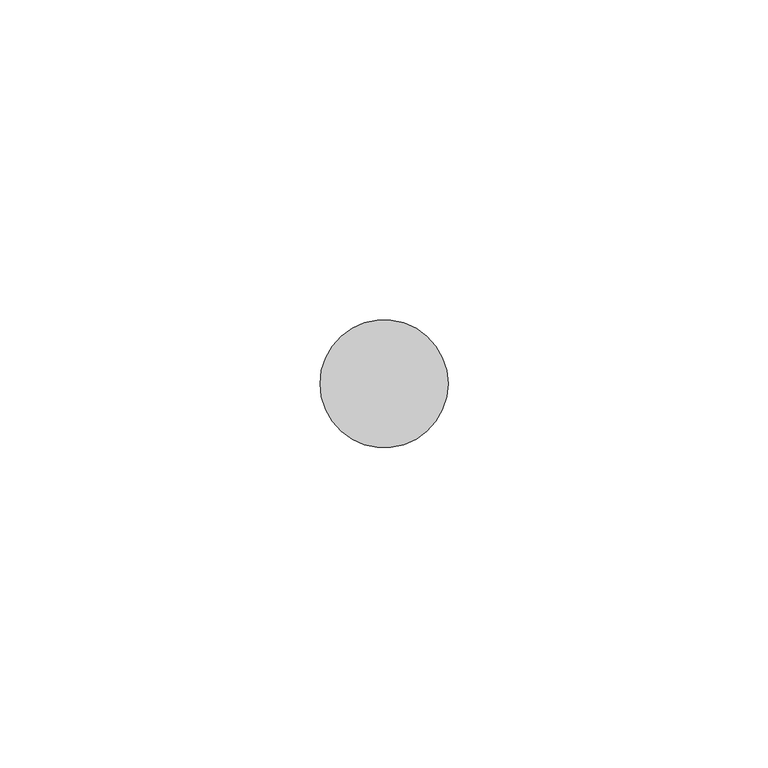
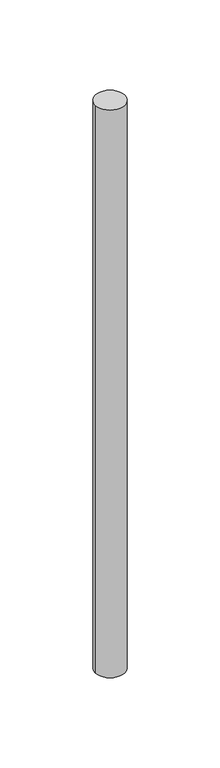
"""IFC4 building model written with IfcOpenShell, lengths in millimetres: member geometry, Импост круглого сечения : Радиус 25 мм."""

from ifc_helpers import new_model, si_unit, point, frame, frame_2d, origin, place, context, project, spatial, circle_curve, trimmed, segment, composite_curve, outline, extrude, source, transform, mapped, element, save


def member_45079aa6(model_context):
    return source(origin(), model_context, "Body", "SweptSolid", [
        extrude(outline(composite_curve([segment(trimmed(circle_curve(frame_2d((-10.0, 0.0)), 10.0), [point((0.0, 0.0))], [point((-20.0, 0.0))], False, "CARTESIAN"), True, "CONTINUOUS"), segment(trimmed(circle_curve(frame_2d((-10.0, 0.0)), 10.0), [point((-20.0, 0.0))], [point((0.0, 0.0))], False, "CARTESIAN"), True, "CONTINUOUS")], self_intersect=False)), frame((0.0, 0.0, -399.9999997), z_axis=(0.0, 0.0, 1.0), x_axis=(1.0, 0.0, 0.0)), (0.0, 0.0, 1.0), 399.9999997),
    ])


if __name__ == "__main__":
    model = new_model("IFC4")
    model_context = context("Model", 3, world=origin())
    ifc_project = project(units=[si_unit("LENGTHUNIT", "METRE", prefix="MILLI")], contexts=[model_context])
    site = spatial("IfcSite", under=ifc_project)
    building = spatial("IfcBuilding", under=site)
    placement = place(None, origin())
    member_shape = member_45079aa6(model_context)
    element("IfcMember", 1, ObjectType="Импост круглого сечения : Радиус 25 мм", at=placement, inside=building, context=model_context, shape_type="MappedRepresentation", body=[
        mapped(member_shape, transform((0.0, 0.0, 0.0), x_axis=(1.0, 0.0, 0.0), y_axis=(0.0, 1.0, 0.0), z_axis=(0.0, 0.0, 1.0))),
    ])
    save(model, "model.ifc")
